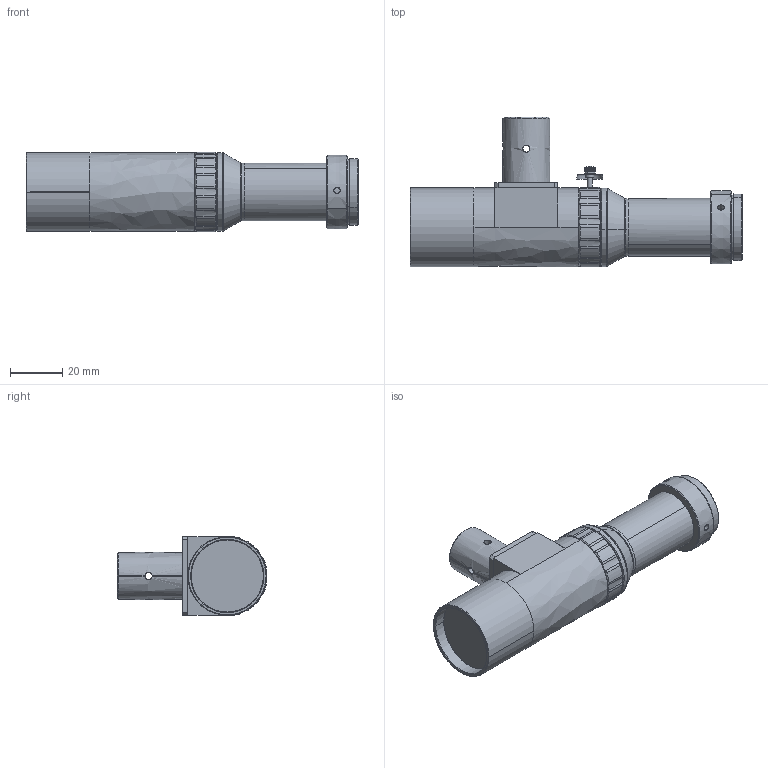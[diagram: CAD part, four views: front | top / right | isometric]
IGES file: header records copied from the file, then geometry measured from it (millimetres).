
Start section: SolidWorks IGES file using analytic representation for surfaces
Global section: file name: C:\Users\16255\Desktop\WWH40-63CTV-IR1075-G.IGS; native system: SolidWorks 2017; preprocessor: SolidWorks 2017; author: 16255; date: 221103.140416; units: millimetre
Bounding box: 126.61 x 57.11 x 30.5 mm (x, y, z)
Surface area: 17174.2 mm2 (no closed solid volume)
Topology: 0 solids, 0 shells, 274 faces, 3886 edges, 3885 vertices
Faces by surface type: revolution 172, bspline 102
